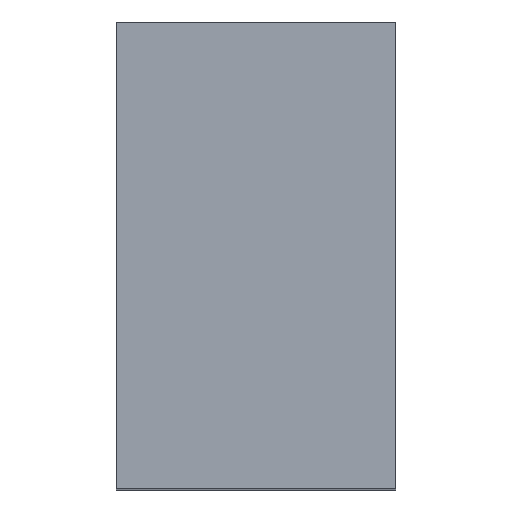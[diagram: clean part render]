
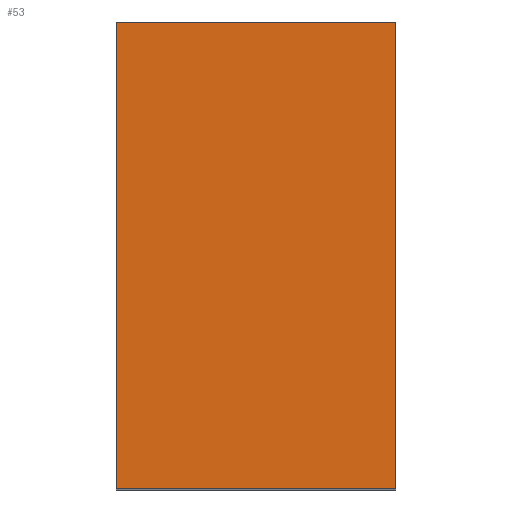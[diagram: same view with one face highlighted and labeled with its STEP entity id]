
A CAD part, top view. The second image highlights one B-rep face of the part: STEP entity #53.
In plain terms, the highlighted planar face has unit normal (0, 0, -1).
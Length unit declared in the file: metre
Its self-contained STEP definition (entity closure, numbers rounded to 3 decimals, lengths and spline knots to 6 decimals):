
#12=ORIENTED_EDGE('',*,*,#20,.F.);
#13=ORIENTED_EDGE('',*,*,#21,.F.);
#14=ORIENTED_EDGE('',*,*,#22,.T.);
#15=ORIENTED_EDGE('',*,*,#23,.T.);
#20=EDGE_CURVE('',#27,#28,#33,.T.);
#21=EDGE_CURVE('',#29,#27,#34,.T.);
#22=EDGE_CURVE('',#29,#30,#35,.T.);
#23=EDGE_CURVE('',#30,#28,#36,.T.);
#27=VERTEX_POINT('',#86);
#28=VERTEX_POINT('',#87);
#29=VERTEX_POINT('',#89);
#30=VERTEX_POINT('',#91);
#33=LINE('',#85,#40);
#34=LINE('',#88,#41);
#35=LINE('',#90,#42);
#36=LINE('',#92,#43);
#40=VECTOR('',#74,1.);
#41=VECTOR('',#75,1.);
#42=VECTOR('',#76,1.);
#43=VECTOR('',#77,1.);
#47=EDGE_LOOP('',(#12,#13,#14,#15));
#49=FACE_BOUND('',#47,.T.);
#51=PLANE('',#68);
#53=ADVANCED_FACE('',(#49),#51,.T.);
#68=AXIS2_PLACEMENT_3D('',#84,#72,#73);
#72=DIRECTION('',(0.,0.,-1.));
#73=DIRECTION('',(-1.,0.,0.));
#74=DIRECTION('',(0.,1.,0.));
#75=DIRECTION('',(1.,0.,0.));
#76=DIRECTION('',(0.,1.,0.));
#77=DIRECTION('',(1.,0.,0.));
#84=CARTESIAN_POINT('',(0.,0.14238,-0.008039));
#85=CARTESIAN_POINT('',(0.013,0.14238,-0.008039));
#86=CARTESIAN_POINT('',(0.013,0.129212,-0.008039));
#87=CARTESIAN_POINT('',(0.013,0.150875,-0.008039));
#88=CARTESIAN_POINT('',(0.,0.129212,-0.008039));
#89=CARTESIAN_POINT('',(0.,0.129212,-0.008039));
#90=CARTESIAN_POINT('',(0.,0.14238,-0.008039));
#91=CARTESIAN_POINT('',(0.,0.150875,-0.008039));
#92=CARTESIAN_POINT('',(0.,0.150875,-0.008039));
